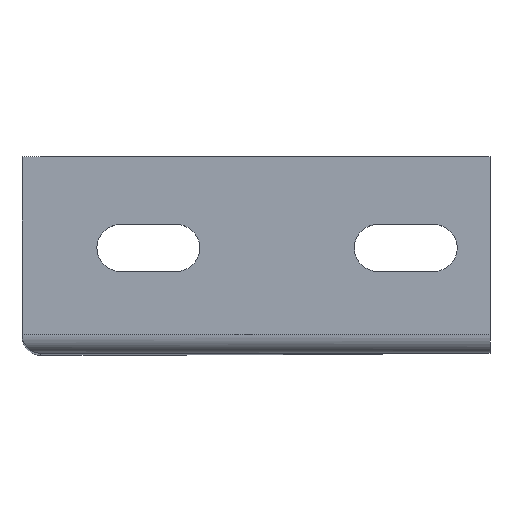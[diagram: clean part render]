
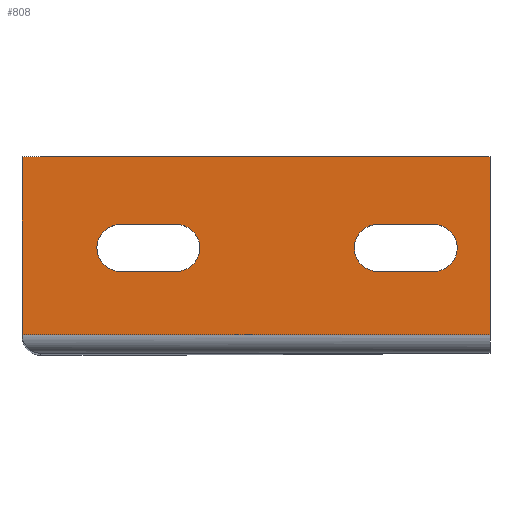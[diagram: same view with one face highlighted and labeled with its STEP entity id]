
A CAD part, top view. The second image highlights one B-rep face of the part: STEP entity #808.
In plain terms, the highlighted planar face has unit normal (0, 0, 1).
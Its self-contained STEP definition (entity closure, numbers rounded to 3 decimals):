
#17=DIRECTION('',(-1.,0.,0.));
#18=VECTOR('',#17,100.);
#19=CARTESIAN_POINT('',(100.,4.,0.));
#20=LINE('',#19,#18);
#192=DIRECTION('',(0.,1.,0.));
#193=VECTOR('',#192,38.);
#194=CARTESIAN_POINT('',(100.,4.,0.));
#195=LINE('',#194,#193);
#204=CARTESIAN_POINT('',(21.,22.5,0.));
#205=DIRECTION('',(0.,0.,-1.));
#206=DIRECTION('',(0.,-1.,0.));
#207=AXIS2_PLACEMENT_3D('',#204,#205,#206);
#209=DIRECTION('',(-1.,0.,0.));
#210=VECTOR('',#209,12.);
#211=CARTESIAN_POINT('',(33.,17.5,0.));
#212=LINE('',#211,#210);
#213=CARTESIAN_POINT('',(33.,22.5,0.));
#214=DIRECTION('',(0.,0.,-1.));
#215=DIRECTION('',(0.,1.,0.));
#216=AXIS2_PLACEMENT_3D('',#213,#214,#215);
#218=DIRECTION('',(1.,0.,0.));
#219=VECTOR('',#218,12.);
#220=CARTESIAN_POINT('',(21.,27.5,0.));
#221=LINE('',#220,#219);
#222=CARTESIAN_POINT('',(76.,22.5,0.));
#223=DIRECTION('',(0.,0.,-1.));
#224=DIRECTION('',(0.,-1.,0.));
#225=AXIS2_PLACEMENT_3D('',#222,#223,#224);
#227=DIRECTION('',(-1.,0.,0.));
#228=VECTOR('',#227,12.);
#229=CARTESIAN_POINT('',(88.,17.5,0.));
#230=LINE('',#229,#228);
#231=CARTESIAN_POINT('',(88.,22.5,0.));
#232=DIRECTION('',(0.,0.,-1.));
#233=DIRECTION('',(0.,1.,0.));
#234=AXIS2_PLACEMENT_3D('',#231,#232,#233);
#236=DIRECTION('',(1.,0.,0.));
#237=VECTOR('',#236,12.);
#238=CARTESIAN_POINT('',(76.,27.5,0.));
#239=LINE('',#238,#237);
#240=DIRECTION('',(0.,1.,0.));
#241=VECTOR('',#240,38.);
#242=CARTESIAN_POINT('',(0.,4.,0.));
#243=LINE('',#242,#241);
#351=DIRECTION('',(1.,0.,0.));
#352=VECTOR('',#351,100.);
#353=CARTESIAN_POINT('',(0.,42.,0.));
#354=LINE('',#353,#352);
#368=CARTESIAN_POINT('',(0.,42.,0.));
#370=VERTEX_POINT('',#368);
#371=CARTESIAN_POINT('',(100.,42.,0.));
#372=VERTEX_POINT('',#371);
#415=CARTESIAN_POINT('',(21.,17.5,0.));
#416=CARTESIAN_POINT('',(21.,27.5,0.));
#417=VERTEX_POINT('',#415);
#418=VERTEX_POINT('',#416);
#419=CARTESIAN_POINT('',(33.,27.5,0.));
#420=VERTEX_POINT('',#419);
#421=CARTESIAN_POINT('',(33.,17.5,0.));
#422=VERTEX_POINT('',#421);
#423=CARTESIAN_POINT('',(76.,17.5,0.));
#424=CARTESIAN_POINT('',(76.,27.5,0.));
#425=VERTEX_POINT('',#423);
#426=VERTEX_POINT('',#424);
#427=CARTESIAN_POINT('',(88.,27.5,0.));
#428=VERTEX_POINT('',#427);
#429=CARTESIAN_POINT('',(88.,17.5,0.));
#430=VERTEX_POINT('',#429);
#463=CARTESIAN_POINT('',(100.,4.,0.));
#464=CARTESIAN_POINT('',(0.,4.,0.));
#465=VERTEX_POINT('',#463);
#466=VERTEX_POINT('',#464);
#776=CARTESIAN_POINT('',(0.,0.,0.));
#777=DIRECTION('',(0.,0.,1.));
#778=DIRECTION('',(1.,0.,0.));
#779=AXIS2_PLACEMENT_3D('',#776,#777,#778);
#780=PLANE('',#779);
#781=ORIENTED_EDGE('',*,*,#497,.T.);
#782=ORIENTED_EDGE('',*,*,#528,.T.);
#784=ORIENTED_EDGE('',*,*,#783,.T.);
#785=ORIENTED_EDGE('',*,*,#762,.F.);
#786=EDGE_LOOP('',(#781,#782,#784,#785));
#787=FACE_OUTER_BOUND('',#786,.F.);
#789=ORIENTED_EDGE('',*,*,#788,.F.);
#791=ORIENTED_EDGE('',*,*,#790,.F.);
#793=ORIENTED_EDGE('',*,*,#792,.F.);
#795=ORIENTED_EDGE('',*,*,#794,.F.);
#796=EDGE_LOOP('',(#789,#791,#793,#795));
#797=FACE_BOUND('',#796,.F.);
#799=ORIENTED_EDGE('',*,*,#798,.F.);
#801=ORIENTED_EDGE('',*,*,#800,.F.);
#803=ORIENTED_EDGE('',*,*,#802,.F.);
#805=ORIENTED_EDGE('',*,*,#804,.F.);
#806=EDGE_LOOP('',(#799,#801,#803,#805));
#807=FACE_BOUND('',#806,.F.);
#808=ADVANCED_FACE('',(#787,#797,#807),#780,.T.);
#208=CIRCLE('',#207,5.);
#217=CIRCLE('',#216,5.);
#226=CIRCLE('',#225,5.);
#235=CIRCLE('',#234,5.);
#497=EDGE_CURVE('',#465,#466,#20,.T.);
#528=EDGE_CURVE('',#466,#370,#243,.T.);
#762=EDGE_CURVE('',#465,#372,#195,.T.);
#783=EDGE_CURVE('',#370,#372,#354,.T.);
#788=EDGE_CURVE('',#417,#418,#208,.T.);
#790=EDGE_CURVE('',#422,#417,#212,.T.);
#792=EDGE_CURVE('',#420,#422,#217,.T.);
#794=EDGE_CURVE('',#418,#420,#221,.T.);
#798=EDGE_CURVE('',#425,#426,#226,.T.);
#800=EDGE_CURVE('',#430,#425,#230,.T.);
#802=EDGE_CURVE('',#428,#430,#235,.T.);
#804=EDGE_CURVE('',#426,#428,#239,.T.);
